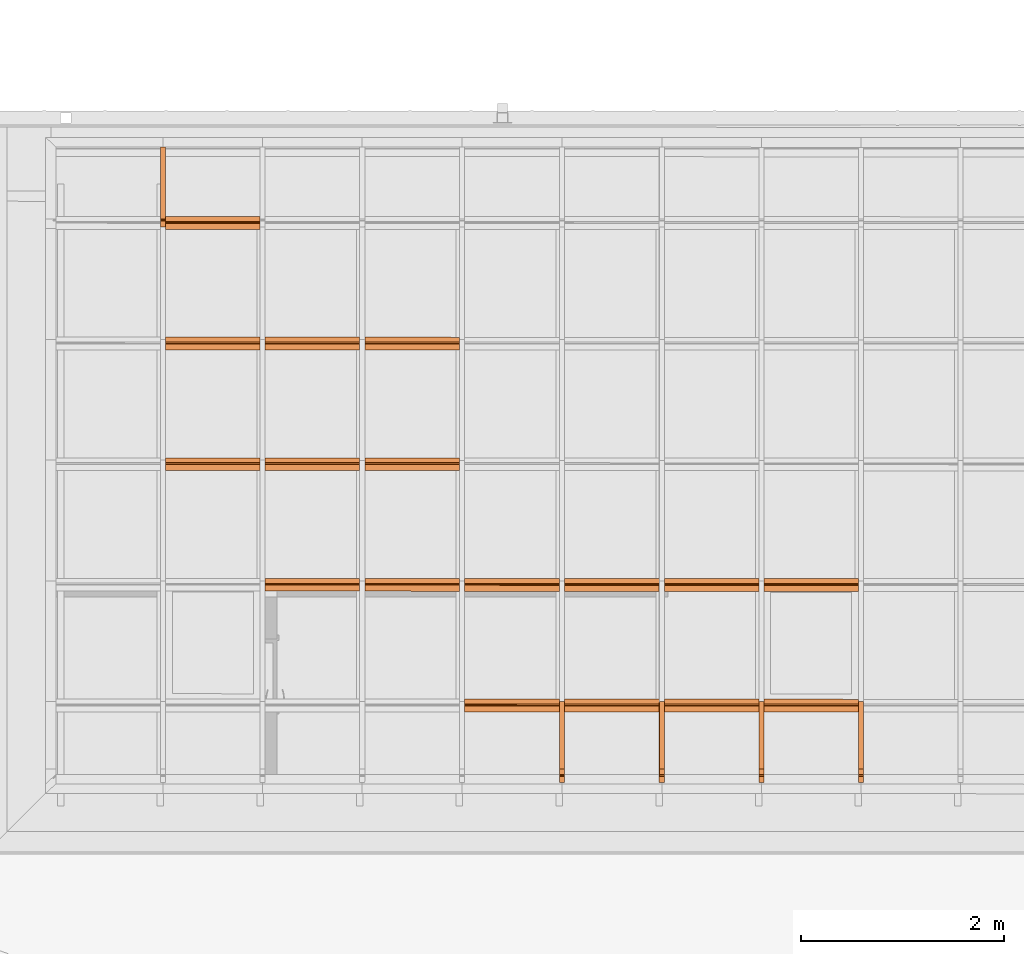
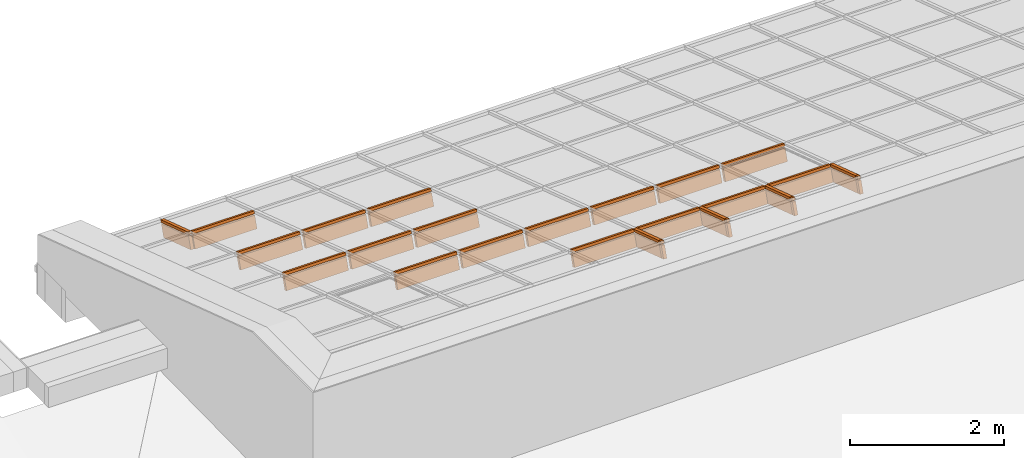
# One storey, part 41 of 47: 26 proxies, 1 element without a shape of its own.
"""IFC2X3 building model written with IfcOpenShell, lengths in millimetres."""

from ifc_helpers import new_model, entity, si_unit, converted_unit, derived_unit, money_unit, direction, frame, origin_with_axes, place, context, subcontext, project, spatial, polyline, outline, extrude, material, material_list, type_object, element, aggregate, save


model = new_model("IFC2X3")

# Units and contexts
model_context = context("Model", 3, precision=1e-05, world=origin_with_axes(), true_north=direction((0.0, 1.0)))
body_context = subcontext(model_context, "Body", "Model", "MODEL_VIEW")
ifc_project = project(units=[si_unit("LENGTHUNIT", "METRE", prefix="MILLI"), si_unit("AREAUNIT", "SQUARE_METRE"), si_unit("VOLUMEUNIT", "CUBIC_METRE"), converted_unit("PLANEANGLEUNIT", "DEGREE", entity("IfcPlaneAngleMeasure", 0.0174532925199), si_unit("PLANEANGLEUNIT", "RADIAN"), dimensions=[0, 0, 0, 0, 0, 0, 0]), si_unit("SOLIDANGLEUNIT", "STERADIAN"), money_unit("EUR"), converted_unit("TIMEUNIT", "Year", entity("IfcTimeMeasure", 31556926.0), si_unit("TIMEUNIT", "SECOND"), dimensions=[0, 0, 1, 0, 0, 0, 0]), si_unit("MASSUNIT", "GRAM", prefix="KILO"), si_unit("THERMODYNAMICTEMPERATUREUNIT", "DEGREE_CELSIUS"), si_unit("LUMINOUSINTENSITYUNIT", "LUMEN"), si_unit("ENERGYUNIT", "JOULE", prefix="MEGA"), derived_unit("THERMALCONDUCTANCEUNIT", [(si_unit("POWERUNIT", "WATT"), 1), (si_unit("LENGTHUNIT", "METRE"), -1), (si_unit("THERMODYNAMICTEMPERATUREUNIT", "KELVIN"), -1)]), derived_unit("SPECIFICHEATCAPACITYUNIT", [(si_unit("ENERGYUNIT", "JOULE"), 1), (si_unit("MASSUNIT", "GRAM", prefix="KILO"), -1), (si_unit("THERMODYNAMICTEMPERATUREUNIT", "KELVIN"), -1)]), derived_unit("MASSDENSITYUNIT", [(si_unit("MASSUNIT", "GRAM", prefix="KILO"), 1), (si_unit("VOLUMEUNIT", "CUBIC_METRE"), -1)])], contexts=[model_context])

# Site, building, storey
site_placement = place(None, origin_with_axes())
site = spatial("IfcSite", under=ifc_project, at=site_placement, Name="Site", CompositionType="ELEMENT")
building_placement = place(site_placement, origin_with_axes())
building = spatial("IfcBuilding", under=site, at=building_placement, Name="Building", CompositionType="ELEMENT")
storey_placement = place(building_placement, frame((0.0, 0.0, 6000.0), z_axis=(0.0, 0.0, 1.0), x_axis=(1.0, 0.0, 0.0)))
storey = spatial("IfcBuildingStorey", under=building, at=storey_placement, Name="KATUSEPLAAN", CompositionType="ELEMENT", Elevation=6000.0)

# Curtain wall, proxies
curtain_wall_type = type_object("IfcCurtainWallType", Name="KK-2", PredefinedType="NOTDEFINED")
curtain_wall_placement = place(storey_placement, frame((71638.1505463, 41358.6055567, 722.550081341), z_axis=(0.0, 0.0, 1.0), x_axis=(1.0, 0.0, 0.0)))
curtain_wall = element("IfcCurtainWall", 1, at=curtain_wall_placement, inside=storey, type_object=curtain_wall_type, Name="Talveaja klaaskatus")
ifc_material = material(Name="Alumiinium (1)")
ifc_material_list = material_list([ifc_material, ifc_material])
building_element_proxy_type_1 = type_object("IfcBuildingElementProxyType", Name="Frame-Mll-194", PredefinedType="NOTDEFINED")
proxy_1_placement = place(curtain_wall_placement, frame((-6378.99729663, 5983.62536693, 19.7403676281), z_axis=(0.0, -0.950019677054, 0.312190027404), x_axis=(-0.999999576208, 0.000287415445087, 0.000874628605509)))
proxy_1 = element("IfcBuildingElementProxy", 2, at=proxy_1_placement, type_object=building_element_proxy_type_1, material=ifc_material_list, Name="Alumiinium (1);  Objekti nimi: Frame 22", context=body_context, shape_type="SweptSolid", body=[
    extrude(outline(polyline([(25.0091958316, 9.97697969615), (25.1841179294, 199.976899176), (-24.8158608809, 200.022931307), (-24.990782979, 10.0230118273), (25.0091958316, 9.97697969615)])), frame((0.0, 4.54747350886e-10, 49.9999999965), z_axis=(0.0, 0.0, 1.0), x_axis=(0.999999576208, 0.000920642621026, 0.0)), (0.0, 0.0, 1.0), 744.739022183),
    extrude(outline(polyline([(-25.0091958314, -9.97697969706), (-25.0460215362, -49.9769627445), (24.9539572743, -50.0229948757), (24.990782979, -10.0230118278), (-25.0091958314, -9.97697969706)])), frame((0.0, 0.0, 49.9999999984), z_axis=(0.0, 0.0, 1.0), x_axis=(0.999999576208, 0.000920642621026, 0.0)), (0.0, 0.0, 1.0), 744.739022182),
])
building_element_proxy_type_2 = type_object("IfcBuildingElementProxyType", Name="Frame-Trs-749", PredefinedType="NOTDEFINED")
proxy_2_placement = place(curtain_wall_placement, frame((-5398.99771195, 1665.75220165, 1437.70543147), z_axis=(0.999999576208, -0.000287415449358, -0.000874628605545), x_axis=(0.0, -0.950019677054, 0.312190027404)))
proxy_2 = element("IfcBuildingElementProxy", 3, at=proxy_2_placement, type_object=building_element_proxy_type_2, material=ifc_material_list, Name="Alumiinium (1);  Objekti nimi: Frame 22", context=body_context, shape_type="SweptSolid", body=[
    extrude(outline(polyline([(26.8723924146, 1.69544270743), (86.1885203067, 182.199173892), (38.6875384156, 197.808681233), (-20.6285894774, 17.3049500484), (26.8723924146, 1.69544270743)])), frame((0.0, 0.0, 24.9999999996), z_axis=(0.0, 0.0, 1.0), x_axis=(0.950019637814, 0.312190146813, 0.0)), (0.0, 0.0, 1.0), 930.0),
    extrude(outline(polyline([(-26.8723924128, -1.69544270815), (-39.3599982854, -39.6962282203), (8.14098360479, -55.3057355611), (20.6285894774, -17.304950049), (-26.8723924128, -1.69544270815)])), frame((0.0, 0.0, 24.9999999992), z_axis=(0.0, 0.0, 1.0), x_axis=(0.950019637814, 0.312190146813, 0.0)), (0.0, 0.0, 1.0), 930.000000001),
])
building_element_proxy_type_3 = type_object("IfcBuildingElementProxyType", Name="Frame-Trs-751", PredefinedType="NOTDEFINED")
proxy_3_placement = place(curtain_wall_placement, frame((-3435.99854385, 1665.18800513, 1435.98853552), z_axis=(0.999999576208, -0.000287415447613, -0.000874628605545), x_axis=(0.0, -0.950019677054, 0.312190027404)))
proxy_3 = element("IfcBuildingElementProxy", 4, at=proxy_3_placement, type_object=building_element_proxy_type_3, material=ifc_material_list, Name="Alumiinium (1);  Objekti nimi: Frame 22", context=body_context, shape_type="SweptSolid", body=[
    extrude(outline(polyline([(26.8723924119, 1.69544270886), (86.1885203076, 182.199173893), (38.6875384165, 197.808681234), (-20.6285894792, 17.3049500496), (26.8723924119, 1.69544270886)])), frame((-9.09494701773e-10, 4.54747350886e-10, 25.0000000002), z_axis=(0.0, 0.0, 1.0), x_axis=(0.950019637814, 0.312190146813, 0.0)), (0.0, 0.0, 1.0), 933.0),
    extrude(outline(polyline([(-26.8723924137, -1.69544270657), (-39.3599982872, -39.6962282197), (8.14098360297, -55.3057355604), (20.6285894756, -17.3049500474), (-26.8723924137, -1.69544270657)])), frame((-9.09494701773e-10, 4.54747350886e-10, 25.0000000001), z_axis=(0.0, 0.0, 1.0), x_axis=(0.950019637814, 0.312190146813, 0.0)), (0.0, 0.0, 1.0), 933.0),
])
building_element_proxy_type_4 = type_object("IfcBuildingElementProxyType", Name="Frame-Trs-753", PredefinedType="NOTDEFINED")
proxy_4_placement = place(curtain_wall_placement, frame((-1469.99937703, 1664.62294637, 1434.26901568), z_axis=(0.999999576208, -0.000287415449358, -0.000874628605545), x_axis=(0.0, -0.950019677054, 0.312190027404)))
proxy_4 = element("IfcBuildingElementProxy", 5, at=proxy_4_placement, type_object=building_element_proxy_type_4, material=ifc_material_list, Name="Alumiinium (1);  Objekti nimi: Frame 22", context=body_context, shape_type="SweptSolid", body=[
    extrude(outline(polyline([(26.8723924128, 1.69544270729), (86.1885203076, 182.199173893), (38.6875384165, 197.808681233), (-20.6285894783, 17.304950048), (26.8723924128, 1.69544270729)])), frame((0.0, 0.0, 25.0000000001), z_axis=(0.0, 0.0, 1.0), x_axis=(0.950019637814, 0.312190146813, 0.0)), (0.0, 0.0, 1.0), 930.0),
    extrude(outline(polyline([(-26.8723924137, -1.69544270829), (-39.3599982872, -39.6962282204), (8.14098360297, -55.3057355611), (20.6285894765, -17.304950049), (-26.8723924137, -1.69544270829)])), frame((0.0, 0.0, 24.9999999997), z_axis=(0.0, 0.0, 1.0), x_axis=(0.950019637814, 0.312190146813, 0.0)), (0.0, 0.0, 1.0), 930.000000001),
])
building_element_proxy_type_5 = type_object("IfcBuildingElementProxyType", Name="Frame-Trs-172", PredefinedType="NOTDEFINED")
proxy_5_placement = place(curtain_wall_placement, frame((-6378.99729663, 5228.60765774, 267.849964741), z_axis=(0.999999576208, -0.000287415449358, -0.000874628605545), x_axis=(0.0, -0.950019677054, 0.312190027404)))
proxy_5 = element("IfcBuildingElementProxy", 6, at=proxy_5_placement, type_object=building_element_proxy_type_5, material=ifc_material_list, Name="Alumiinium (1);  Objekti nimi: Frame 22", context=body_context, shape_type="SweptSolid", body=[
    extrude(outline(polyline([(26.8723924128, 1.69544270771), (86.1885203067, 182.199173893), (38.6875384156, 197.808681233), (-20.6285894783, 17.3049500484), (26.8723924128, 1.69544270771)])), frame((-9.09494701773e-10, 0.0, 25.0), z_axis=(0.0, 0.0, 1.0), x_axis=(0.950019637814, 0.312190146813, 0.0)), (0.0, 0.0, 1.0), 930.0),
    extrude(outline(polyline([(-26.8723924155, -1.69544270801), (-39.3599982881, -39.6962282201), (8.14098360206, -55.3057355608), (20.6285894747, -17.3049500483), (-26.8723924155, -1.69544270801)])), frame((-9.09494701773e-10, 0.0, 24.9999999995), z_axis=(0.0, 0.0, 1.0), x_axis=(0.950019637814, 0.312190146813, 0.0)), (0.0, 0.0, 1.0), 930.000000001),
])
building_element_proxy_type_6 = type_object("IfcBuildingElementProxyType", Name="Frame-Trs-196", PredefinedType="NOTDEFINED")
proxy_6_placement = place(curtain_wall_placement, frame((-6378.99729663, 4041.08306142, 658.087498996), z_axis=(0.999999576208, -0.000287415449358, -0.000874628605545), x_axis=(0.0, -0.950019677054, 0.312190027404)))
proxy_6 = element("IfcBuildingElementProxy", 7, at=proxy_6_placement, type_object=building_element_proxy_type_6, material=ifc_material_list, Name="Alumiinium (1);  Objekti nimi: Frame 22", context=body_context, shape_type="SweptSolid", body=[
    extrude(outline(polyline([(26.8723924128, 1.69544270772), (86.1885203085, 182.199173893), (38.6875384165, 197.808681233), (-20.6285894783, 17.304950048), (26.8723924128, 1.69544270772)])), frame((0.0, 0.0, 25.0000000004), z_axis=(0.0, 0.0, 1.0), x_axis=(0.950019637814, 0.312190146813, 0.0)), (0.0, 0.0, 1.0), 930.0),
    extrude(outline(polyline([(-26.8723924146, -1.6954427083), (-39.3599982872, -39.6962282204), (8.14098360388, -55.3057355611), (20.6285894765, -17.3049500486), (-26.8723924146, -1.6954427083)])), frame((0.0, 0.0, 25.0), z_axis=(0.0, 0.0, 1.0), x_axis=(0.950019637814, 0.312190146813, 0.0)), (0.0, 0.0, 1.0), 930.000000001),
])
building_element_proxy_type_7 = type_object("IfcBuildingElementProxyType", Name="Frame-Trs-265", PredefinedType="NOTDEFINED")
proxy_7_placement = place(curtain_wall_placement, frame((-6378.99729663, 2853.5584651, 1048.32503325), z_axis=(0.999999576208, -0.000287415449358, -0.000874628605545), x_axis=(0.0, -0.950019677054, 0.312190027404)))
proxy_7 = element("IfcBuildingElementProxy", 8, at=proxy_7_placement, type_object=building_element_proxy_type_7, material=ifc_material_list, Name="Alumiinium (1);  Objekti nimi: Frame 22", context=body_context, shape_type="SweptSolid", body=[
    extrude(outline(polyline([(26.8723924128, 1.69544270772), (86.1885203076, 182.199173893), (38.6875384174, 197.808681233), (-20.6285894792, 17.304950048), (26.8723924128, 1.69544270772)])), frame((0.0, 0.0, 25.0000000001), z_axis=(0.0, 0.0, 1.0), x_axis=(0.950019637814, 0.312190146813, 0.0)), (0.0, 0.0, 1.0), 930.0),
    extrude(outline(polyline([(-26.8723924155, -1.69544270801), (-39.3599982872, -39.6962282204), (8.14098360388, -55.3057355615), (20.6285894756, -17.3049500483), (-26.8723924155, -1.69544270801)])), frame((0.0, 0.0, 24.9999999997), z_axis=(0.0, 0.0, 1.0), x_axis=(0.950019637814, 0.312190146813, 0.0)), (0.0, 0.0, 1.0), 930.000000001),
])
building_element_proxy_type_8 = type_object("IfcBuildingElementProxyType", Name="Frame-Trs-197", PredefinedType="NOTDEFINED")
proxy_8_placement = place(curtain_wall_placement, frame((-5398.99771195, 4040.80139428, 657.230362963), z_axis=(0.999999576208, -0.000287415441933, -0.000874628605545), x_axis=(0.0, -0.950019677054, 0.312190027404)))
proxy_8 = element("IfcBuildingElementProxy", 9, at=proxy_8_placement, type_object=building_element_proxy_type_8, material=ifc_material_list, Name="Alumiinium (1);  Objekti nimi: Frame 22", context=body_context, shape_type="SweptSolid", body=[
    extrude(outline(polyline([(26.8723924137, 1.69544270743), (86.1885203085, 182.199173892), (38.6875384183, 197.808681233), (-20.6285894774, 17.3049500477), (26.8723924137, 1.69544270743)])), frame((0.0, 0.0, 24.9999999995), z_axis=(0.0, 0.0, 1.0), x_axis=(0.950019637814, 0.312190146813, 0.0)), (0.0, 0.0, 1.0), 930.0),
    extrude(outline(polyline([(-26.8723924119, -1.69544270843), (-39.3599982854, -39.6962282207), (8.14098360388, -55.3057355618), (20.6285894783, -17.3049500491), (-26.8723924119, -1.69544270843)])), frame((0.0, 0.0, 24.9999999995), z_axis=(0.0, 0.0, 1.0), x_axis=(0.950019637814, 0.312190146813, 0.0)), (0.0, 0.0, 1.0), 930.0),
])
building_element_proxy_type_9 = type_object("IfcBuildingElementProxyType", Name="Frame-Trs-264", PredefinedType="NOTDEFINED")
proxy_9_placement = place(curtain_wall_placement, frame((-5398.99771195, 2853.27679796, 1047.46789722), z_axis=(0.999999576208, -0.000287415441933, -0.000874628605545), x_axis=(0.0, -0.950019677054, 0.312190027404)))
proxy_9 = element("IfcBuildingElementProxy", 10, at=proxy_9_placement, type_object=building_element_proxy_type_9, material=ifc_material_list, Name="Alumiinium (1);  Objekti nimi: Frame 22", context=body_context, shape_type="SweptSolid", body=[
    extrude(outline(polyline([(26.8723924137, 1.69544270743), (86.1885203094, 182.199173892), (38.6875384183, 197.808681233), (-20.6285894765, 17.3049500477), (26.8723924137, 1.69544270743)])), frame((0.0, 0.0, 24.9999999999), z_axis=(0.0, 0.0, 1.0), x_axis=(0.950019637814, 0.312190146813, 0.0)), (0.0, 0.0, 1.0), 930.0),
    extrude(outline(polyline([(-26.8723924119, -1.69544270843), (-39.3599982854, -39.696228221), (8.1409836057, -55.3057355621), (20.6285894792, -17.3049500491), (-26.8723924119, -1.69544270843)])), frame((0.0, 0.0, 24.9999999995), z_axis=(0.0, 0.0, 1.0), x_axis=(0.950019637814, 0.312190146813, 0.0)), (0.0, 0.0, 1.0), 930.000000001),
])
building_element_proxy_type_10 = type_object("IfcBuildingElementProxyType", Name="Frame-Trs-198", PredefinedType="NOTDEFINED")
proxy_10_placement = place(curtain_wall_placement, frame((-4418.99812727, 4040.51972715, 656.373226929), z_axis=(0.999999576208, -0.000287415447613, -0.000874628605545), x_axis=(0.0, -0.950019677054, 0.312190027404)))
proxy_10 = element("IfcBuildingElementProxy", 11, at=proxy_10_placement, type_object=building_element_proxy_type_10, material=ifc_material_list, Name="Alumiinium (1);  Objekti nimi: Frame 22", context=body_context, shape_type="SweptSolid", body=[
    extrude(outline(polyline([(26.8723924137, 1.69544270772), (86.1885203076, 182.199173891), (38.6875384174, 197.808681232), (-20.6285894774, 17.3049500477), (26.8723924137, 1.69544270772)])), frame((0.0, 0.0, 24.9999999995), z_axis=(0.0, 0.0, 1.0), x_axis=(0.950019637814, 0.312190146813, 0.0)), (0.0, 0.0, 1.0), 933.0),
    extrude(outline(polyline([(-26.8723924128, -1.69544270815), (-39.3599982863, -39.6962282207), (8.14098360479, -55.3057355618), (20.6285894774, -17.304950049), (-26.8723924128, -1.69544270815)])), frame((0.0, 0.0, 24.9999999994), z_axis=(0.0, 0.0, 1.0), x_axis=(0.950019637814, 0.312190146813, 0.0)), (0.0, 0.0, 1.0), 933.000000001),
])
building_element_proxy_type_11 = type_object("IfcBuildingElementProxyType", Name="Frame-Trs-263", PredefinedType="NOTDEFINED")
proxy_11_placement = place(curtain_wall_placement, frame((-4418.99812727, 2852.99513083, 1046.61076118), z_axis=(0.999999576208, -0.000287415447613, -0.000874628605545), x_axis=(0.0, -0.950019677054, 0.312190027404)))
proxy_11 = element("IfcBuildingElementProxy", 12, at=proxy_11_placement, type_object=building_element_proxy_type_11, material=ifc_material_list, Name="Alumiinium (1);  Objekti nimi: Frame 22", context=body_context, shape_type="SweptSolid", body=[
    extrude(outline(polyline([(26.8723924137, 1.69544270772), (86.1885203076, 182.199173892), (38.6875384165, 197.808681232), (-20.6285894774, 17.3049500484), (26.8723924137, 1.69544270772)])), frame((0.0, 0.0, 25.0), z_axis=(0.0, 0.0, 1.0), x_axis=(0.950019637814, 0.312190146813, 0.0)), (0.0, 0.0, 1.0), 933.0),
    extrude(outline(polyline([(-26.8723924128, -1.69544270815), (-39.3599982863, -39.6962282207), (8.14098360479, -55.3057355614), (20.6285894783, -17.3049500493), (-26.8723924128, -1.69544270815)])), frame((0.0, 0.0, 24.9999999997), z_axis=(0.0, 0.0, 1.0), x_axis=(0.950019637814, 0.312190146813, 0.0)), (0.0, 0.0, 1.0), 933.0),
])
building_element_proxy_type_12 = type_object("IfcBuildingElementProxyType", Name="Frame-Trs-519", PredefinedType="NOTDEFINED")
proxy_12_placement = place(curtain_wall_placement, frame((-3435.99854385, 477.663408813, 1826.22606977), z_axis=(0.999999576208, -0.000287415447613, -0.000874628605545), x_axis=(0.0, -0.950019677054, 0.312190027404)))
proxy_12 = element("IfcBuildingElementProxy", 13, at=proxy_12_placement, type_object=building_element_proxy_type_12, material=ifc_material_list, Name="Alumiinium (1);  Objekti nimi: Frame 22", context=body_context, shape_type="SweptSolid", body=[
    extrude(outline(polyline([(26.8723924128, 1.69544270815), (86.1885203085, 182.199173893), (38.6875384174, 197.808681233), (-20.6285894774, 17.3049500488), (26.8723924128, 1.69544270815)])), frame((9.09494701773e-10, 0.0, 24.9999999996), z_axis=(0.0, 0.0, 1.0), x_axis=(0.950019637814, 0.312190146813, 0.0)), (0.0, 0.0, 1.0), 933.0),
    extrude(outline(polyline([(-26.8723924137, -1.69544270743), (-39.3599982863, -39.69622822), (8.14098360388, -55.3057355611), (20.6285894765, -17.3049500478), (-26.8723924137, -1.69544270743)])), frame((9.09494701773e-10, 0.0, 24.9999999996), z_axis=(0.0, 0.0, 1.0), x_axis=(0.950019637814, 0.312190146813, 0.0)), (0.0, 0.0, 1.0), 933.0),
])
building_element_proxy_type_13 = type_object("IfcBuildingElementProxyType", Name="Frame-Trs-521", PredefinedType="NOTDEFINED")
proxy_13_placement = place(curtain_wall_placement, frame((-1469.99937703, 477.098350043, 1824.50654994), z_axis=(0.999999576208, -0.000287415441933, -0.000874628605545), x_axis=(0.0, -0.950019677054, 0.312190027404)))
proxy_13 = element("IfcBuildingElementProxy", 14, at=proxy_13_placement, type_object=building_element_proxy_type_13, material=ifc_material_list, Name="Alumiinium (1);  Objekti nimi: Frame 22", context=body_context, shape_type="SweptSolid", body=[
    extrude(outline(polyline([(26.8723924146, 1.69544270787), (86.1885203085, 182.199173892), (38.6875384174, 197.808681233), (-20.6285894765, 17.3049500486), (26.8723924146, 1.69544270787)])), frame((1.81898940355e-09, 4.54747350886e-10, 25.0), z_axis=(0.0, 0.0, 1.0), x_axis=(0.950019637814, 0.312190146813, 0.0)), (0.0, 0.0, 1.0), 930.0),
    extrude(outline(polyline([(-26.8723924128, -1.69544270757), (-39.3599982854, -39.696228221), (8.14098360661, -55.3057355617), (20.6285894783, -17.3049500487), (-26.8723924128, -1.69544270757)])), frame((1.81898940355e-09, 4.54747350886e-10, 24.9999999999), z_axis=(0.0, 0.0, 1.0), x_axis=(0.950019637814, 0.312190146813, 0.0)), (0.0, 0.0, 1.0), 930.0),
])
building_element_proxy_type_14 = type_object("IfcBuildingElementProxyType", Name="Frame-Mll-874", PredefinedType="NOTDEFINED")
proxy_14_placement = place(curtain_wall_placement, frame((-1469.99937703, 477.098350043, 1824.50654994), z_axis=(0.0, -0.950019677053, 0.312190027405), x_axis=(-0.999999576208, 0.000287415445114, 0.000874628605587)))
proxy_14 = element("IfcBuildingElementProxy", 15, at=proxy_14_placement, type_object=building_element_proxy_type_14, material=ifc_material_list, Name="Alumiinium (1);  Objekti nimi: Frame 22", context=body_context, shape_type="SweptSolid", body=[
    extrude(outline(polyline([(25.0091958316, 9.97697969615), (25.1841179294, 199.976899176), (-24.8158608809, 200.022931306), (-24.9907829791, 10.0230118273), (25.0091958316, 9.97697969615)])), frame((0.0, 0.0, 0.0), z_axis=(0.0, 0.0, 1.0), x_axis=(0.999999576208, 0.000920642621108, 0.0)), (0.0, 0.0, 1.0), 700.000000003),
    extrude(outline(polyline([(-25.0091958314, -9.97697969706), (-25.0460215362, -49.9769627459), (24.9539572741, -50.0229948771), (24.990782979, -10.0230118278), (-25.0091958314, -9.97697969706)])), frame((0.0, 0.0, 0.0), z_axis=(0.0, 0.0, 1.0), x_axis=(0.999999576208, 0.000920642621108, 0.0)), (0.0, 0.0, 1.0), 700.000000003),
])
building_element_proxy_type_15 = type_object("IfcBuildingElementProxyType", Name="Frame-Mll-873", PredefinedType="NOTDEFINED")
proxy_15_placement = place(curtain_wall_placement, frame((-2452.99896044, 477.380879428, 1825.36630986), z_axis=(0.0, -0.950019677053, 0.312190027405), x_axis=(-0.999999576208, 0.000287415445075, 0.000874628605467)))
proxy_15 = element("IfcBuildingElementProxy", 16, at=proxy_15_placement, type_object=building_element_proxy_type_15, material=ifc_material_list, Name="Alumiinium (1);  Objekti nimi: Frame 22", context=body_context, shape_type="SweptSolid", body=[
    extrude(outline(polyline([(25.0091958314, 9.9769796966), (25.1841179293, 199.976899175), (-24.8158608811, 200.022931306), (-24.9907829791, 10.0230118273), (25.0091958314, 9.9769796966)])), frame((0.0, 0.0, 0.0), z_axis=(0.0, 0.0, 1.0), x_axis=(0.999999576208, 0.000920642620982, 0.0)), (0.0, 0.0, 1.0), 700.000000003),
    extrude(outline(polyline([(-25.0091958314, -9.9769796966), (-25.0460215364, -49.9769627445), (24.9539572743, -50.0229948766), (24.990782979, -10.0230118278), (-25.0091958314, -9.9769796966)])), frame((0.0, 0.0, 0.0), z_axis=(0.0, 0.0, 1.0), x_axis=(0.999999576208, 0.000920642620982, 0.0)), (0.0, 0.0, 1.0), 700.000000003),
])
building_element_proxy_type_16 = type_object("IfcBuildingElementProxyType", Name="Frame-Trs-750", PredefinedType="NOTDEFINED")
proxy_16_placement = place(curtain_wall_placement, frame((-4418.99812727, 1665.47053451, 1436.84829544), z_axis=(0.999999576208, -0.000287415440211, -0.000874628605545), x_axis=(0.0, -0.950019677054, 0.312190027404)))
proxy_16 = element("IfcBuildingElementProxy", 17, at=proxy_16_placement, type_object=building_element_proxy_type_16, material=ifc_material_list, Name="Alumiinium (1);  Objekti nimi: Frame 22", context=body_context, shape_type="SweptSolid", body=[
    extrude(outline(polyline([(26.8723924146, 1.69544270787), (86.1885203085, 182.199173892), (38.6875384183, 197.808681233), (-20.6285894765, 17.3049500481), (26.8723924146, 1.69544270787)])), frame((0.0, -4.54747350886e-10, 24.9999999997), z_axis=(0.0, 0.0, 1.0), x_axis=(0.950019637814, 0.312190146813, 0.0)), (0.0, 0.0, 1.0), 933.0),
    extrude(outline(polyline([(-26.8723924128, -1.695442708), (-39.3599982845, -39.696228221), (8.14098360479, -55.3057355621), (20.6285894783, -17.3049500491), (-26.8723924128, -1.695442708)])), frame((0.0, -4.54747350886e-10, 24.9999999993), z_axis=(0.0, 0.0, 1.0), x_axis=(0.950019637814, 0.312190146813, 0.0)), (0.0, 0.0, 1.0), 933.0),
])
building_element_proxy_type_17 = type_object("IfcBuildingElementProxyType", Name="Frame-Trs-752", PredefinedType="NOTDEFINED")
proxy_17_placement = place(curtain_wall_placement, frame((-2452.99896044, 1664.90547574, 1435.1287756), z_axis=(0.999999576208, -0.000287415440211, -0.000874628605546), x_axis=(0.0, -0.950019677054, 0.312190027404)))
proxy_17 = element("IfcBuildingElementProxy", 18, at=proxy_17_placement, type_object=building_element_proxy_type_17, material=ifc_material_list, Name="Alumiinium (1);  Objekti nimi: Frame 22", context=body_context, shape_type="SweptSolid", body=[
    extrude(outline(polyline([(26.8723924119, 1.695442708), (86.1885203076, 182.199173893), (38.6875384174, 197.808681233), (-20.6285894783, 17.3049500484), (26.8723924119, 1.695442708)])), frame((-9.09494701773e-10, 0.0, 25.0), z_axis=(0.0, 0.0, 1.0), x_axis=(0.950019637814, 0.312190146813, 0.0)), (0.0, 0.0, 1.0), 933.0),
    extrude(outline(polyline([(-26.8723924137, -1.69544270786), (-39.3599982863, -39.6962282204), (8.14098360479, -55.3057355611), (20.6285894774, -17.3049500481), (-26.8723924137, -1.69544270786)])), frame((-9.09494701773e-10, 0.0, 24.9999999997), z_axis=(0.0, 0.0, 1.0), x_axis=(0.950019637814, 0.312190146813, 0.0)), (0.0, 0.0, 1.0), 933.000000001),
])
building_element_proxy_type_18 = type_object("IfcBuildingElementProxyType", Name="Frame-Trs-754", PredefinedType="NOTDEFINED")
proxy_18_placement = place(curtain_wall_placement, frame((-489.999792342, 1664.34127923, 1433.41187965), z_axis=(0.999999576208, -0.000287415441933, -0.000874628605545), x_axis=(0.0, -0.950019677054, 0.312190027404)))
proxy_18 = element("IfcBuildingElementProxy", 19, at=proxy_18_placement, type_object=building_element_proxy_type_18, material=ifc_material_list, Name="Alumiinium (1);  Objekti nimi: Frame 22", context=body_context, shape_type="SweptSolid", body=[
    extrude(outline(polyline([(26.8723924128, 1.69544270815), (86.1885203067, 182.199173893), (38.6875384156, 197.808681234), (-20.6285894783, 17.3049500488), (26.8723924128, 1.69544270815)])), frame((9.09494701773e-10, 0.0, 24.9999999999), z_axis=(0.0, 0.0, 1.0), x_axis=(0.950019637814, 0.312190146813, 0.0)), (0.0, 0.0, 1.0), 930.0),
    extrude(outline(polyline([(-26.8723924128, -1.695442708), (-39.3599982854, -39.6962282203), (8.1409836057, -55.3057355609), (20.6285894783, -17.3049500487), (-26.8723924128, -1.695442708)])), frame((9.09494701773e-10, 0.0, 24.9999999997), z_axis=(0.0, 0.0, 1.0), x_axis=(0.950019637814, 0.312190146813, 0.0)), (0.0, 0.0, 1.0), 930.000000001),
])
building_element_proxy_type_19 = type_object("IfcBuildingElementProxyType", Name="Frame-Mll-875", PredefinedType="NOTDEFINED")
proxy_19_placement = place(curtain_wall_placement, frame((-489.999792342, 476.81668291, 1823.6494139), z_axis=(0.0, -0.950019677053, 0.312190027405), x_axis=(-0.999999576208, 0.000287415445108, 0.000874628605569)))
proxy_19 = element("IfcBuildingElementProxy", 20, at=proxy_19_placement, type_object=building_element_proxy_type_19, material=ifc_material_list, Name="Alumiinium (1);  Objekti nimi: Frame 22", context=body_context, shape_type="SweptSolid", body=[
    extrude(outline(polyline([(25.0091958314, 9.9769796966), (25.1841179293, 199.976899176), (-24.8158608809, 200.022931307), (-24.9907829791, 10.0230118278), (25.0091958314, 9.9769796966)])), frame((0.0, 4.54747350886e-10, -1.81898940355e-09), z_axis=(0.0, 0.0, 1.0), x_axis=(0.999999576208, 0.00092064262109, 0.0)), (0.0, 0.0, 1.0), 700.000000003),
    extrude(outline(polyline([(-25.0091958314, -9.9769796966), (-25.0460215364, -49.9769627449), (24.9539572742, -50.0229948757), (24.990782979, -10.0230118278), (-25.0091958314, -9.9769796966)])), frame((0.0, 4.54747350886e-10, -1.81898940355e-09), z_axis=(0.0, 0.0, 1.0), x_axis=(0.999999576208, 0.00092064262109, 0.0)), (0.0, 0.0, 1.0), 700.000000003),
])
building_element_proxy_type_20 = type_object("IfcBuildingElementProxyType", Name="Frame-Mll-876", PredefinedType="NOTDEFINED")
proxy_20_placement = place(curtain_wall_placement, frame((489.999792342, 476.535015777, 1822.79227787), z_axis=(0.0, -0.950019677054, 0.312190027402), x_axis=(-0.999999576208, 0.000287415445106, 0.00087462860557)))
proxy_20 = element("IfcBuildingElementProxy", 21, at=proxy_20_placement, type_object=building_element_proxy_type_20, material=ifc_material_list, Name="Alumiinium (1);  Objekti nimi: Frame 22", context=body_context, shape_type="SweptSolid", body=[
    extrude(outline(polyline([(25.0091958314, 9.97697969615), (25.1841179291, 199.976899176), (-24.8158608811, 200.022931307), (-24.9907829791, 10.0230118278), (25.0091958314, 9.97697969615)])), frame((0.0, 0.0, 0.0), z_axis=(0.0, 0.0, 1.0), x_axis=(0.999999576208, 0.00092064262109, 0.0)), (0.0, 0.0, 1.0), 700.000000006),
    extrude(outline(polyline([(-25.0091958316, -9.97697969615), (-25.0460215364, -49.9769627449), (24.9539572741, -50.0229948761), (24.990782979, -10.0230118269), (-25.0091958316, -9.97697969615)])), frame((0.0, 0.0, -9.09494701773e-10), z_axis=(0.0, 0.0, 1.0), x_axis=(0.999999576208, 0.00092064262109, 0.0)), (0.0, 0.0, 1.0), 700.000000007),
])
building_element_proxy_type_21 = type_object("IfcBuildingElementProxyType", Name="Frame-Trs-520", PredefinedType="NOTDEFINED")
proxy_21_placement = place(curtain_wall_placement, frame((-2452.99896044, 477.380879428, 1825.36630986), z_axis=(0.999999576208, -0.000287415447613, -0.000874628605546), x_axis=(0.0, -0.950019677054, 0.312190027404)))
proxy_21 = element("IfcBuildingElementProxy", 22, at=proxy_21_placement, type_object=building_element_proxy_type_21, material=ifc_material_list, Name="Alumiinium (1);  Objekti nimi: Frame 22", context=body_context, shape_type="SweptSolid", body=[
    extrude(outline(polyline([(26.8723924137, 1.69544270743), (86.1885203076, 182.199173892), (38.6875384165, 197.808681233), (-20.6285894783, 17.3049500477), (26.8723924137, 1.69544270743)])), frame((9.09494701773e-10, 0.0, 25.0000000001), z_axis=(0.0, 0.0, 1.0), x_axis=(0.950019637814, 0.312190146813, 0.0)), (0.0, 0.0, 1.0), 933.0),
    extrude(outline(polyline([(-26.8723924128, -1.69544270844), (-39.3599982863, -39.6962282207), (8.14098360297, -55.3057355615), (20.6285894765, -17.304950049), (-26.8723924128, -1.69544270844)])), frame((9.09494701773e-10, 0.0, 25.0000000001), z_axis=(0.0, 0.0, 1.0), x_axis=(0.950019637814, 0.312190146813, 0.0)), (0.0, 0.0, 1.0), 933.0),
])
building_element_proxy_type_22 = type_object("IfcBuildingElementProxyType", Name="Frame-Trs-522", PredefinedType="NOTDEFINED")
proxy_22_placement = place(curtain_wall_placement, frame((-489.999792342, 476.81668291, 1823.6494139), z_axis=(0.999999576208, -0.000287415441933, -0.000874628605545), x_axis=(0.0, -0.950019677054, 0.312190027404)))
proxy_22 = element("IfcBuildingElementProxy", 23, at=proxy_22_placement, type_object=building_element_proxy_type_22, material=ifc_material_list, Name="Alumiinium (1);  Objekti nimi: Frame 22", context=body_context, shape_type="SweptSolid", body=[
    extrude(outline(polyline([(26.8723924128, 1.69544270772), (86.1885203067, 182.199173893), (38.6875384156, 197.808681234), (-20.6285894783, 17.3049500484), (26.8723924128, 1.69544270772)])), frame((0.0, 0.0, 25.0000000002), z_axis=(0.0, 0.0, 1.0), x_axis=(0.950019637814, 0.312190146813, 0.0)), (0.0, 0.0, 1.0), 930.0),
    extrude(outline(polyline([(-26.8723924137, -1.69544270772), (-39.3599982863, -39.6962282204), (8.14098360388, -55.3057355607), (20.6285894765, -17.3049500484), (-26.8723924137, -1.69544270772)])), frame((0.0, 0.0, 25.0000000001), z_axis=(0.0, 0.0, 1.0), x_axis=(0.950019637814, 0.312190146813, 0.0)), (0.0, 0.0, 1.0), 930.0),
])
building_element_proxy_type_23 = type_object("IfcBuildingElementProxyType", Name="Frame-Mll-000", PredefinedType="NOTDEFINED")
proxy_23_placement = place(curtain_wall_placement, frame((489.999792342, -188.478758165, 2041.32529705), z_axis=(0.0, -0.950019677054, 0.312190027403), x_axis=(-0.999999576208, 0.000287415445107, 0.00087462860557)))
proxy_23 = element("IfcBuildingElementProxy", 24, at=proxy_23_placement, type_object=building_element_proxy_type_23, material=ifc_material_list, Name="Alumiinium (1);  Objekti nimi: Frame 22", context=body_context, shape_type="SweptSolid", body=[
    extrude(outline(polyline([(25.0091958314, 9.9769796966), (25.1841179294, 199.976899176), (-24.8158608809, 200.022931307), (-24.9907829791, 10.0230118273), (25.0091958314, 9.9769796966)])), frame((0.0, 0.0, 0.0), z_axis=(0.0, 0.0, 1.0), x_axis=(0.999999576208, 0.00092064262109, 0.0)), (0.0, 0.0, 1.0), 55.2609778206),
    extrude(outline(polyline([(-25.0091958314, -9.9769796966), (-25.0460215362, -49.9769627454), (24.9539572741, -50.0229948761), (24.990782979, -10.0230118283), (-25.0091958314, -9.9769796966)])), frame((0.0, 4.54747350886e-10, -9.09494701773e-10), z_axis=(0.0, 0.0, 1.0), x_axis=(0.999999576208, 0.00092064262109, 0.0)), (0.0, 0.0, 1.0), 55.2609778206),
])
building_element_proxy_type_24 = type_object("IfcBuildingElementProxyType", Name="Frame-Mll-999", PredefinedType="NOTDEFINED")
proxy_24_placement = place(curtain_wall_placement, frame((-489.999792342, -188.197091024, 2042.18243309), z_axis=(0.0, -0.950019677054, 0.312190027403), x_axis=(-0.999999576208, 0.000287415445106, 0.00087462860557)))
proxy_24 = element("IfcBuildingElementProxy", 25, at=proxy_24_placement, type_object=building_element_proxy_type_24, material=ifc_material_list, Name="Alumiinium (1);  Objekti nimi: Frame 22", context=body_context, shape_type="SweptSolid", body=[
    extrude(outline(polyline([(25.0091958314, 9.97697969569), (25.1841179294, 199.976899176), (-24.8158608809, 200.022931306), (-24.990782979, 10.0230118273), (25.0091958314, 9.97697969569)])), frame((0.0, -4.54747350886e-10, -9.09494701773e-10), z_axis=(0.0, 0.0, 1.0), x_axis=(0.999999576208, 0.00092064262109, 0.0)), (0.0, 0.0, 1.0), 55.2609778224),
    extrude(outline(polyline([(-25.0091958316, -9.97697969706), (-25.0460215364, -49.9769627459), (24.9539572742, -50.0229948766), (24.990782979, -10.0230118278), (-25.0091958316, -9.97697969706)])), frame((0.0, -4.54747350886e-10, -1.81898940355e-09), z_axis=(0.0, 0.0, 1.0), x_axis=(0.999999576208, 0.00092064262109, 0.0)), (0.0, 0.0, 1.0), 55.2609778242),
])
building_element_proxy_type_25 = type_object("IfcBuildingElementProxyType", Name="Frame-Mll-998", PredefinedType="NOTDEFINED")
proxy_25_placement = place(curtain_wall_placement, frame((-1469.99937703, -187.915423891, 2043.03956912), z_axis=(0.0, -0.950019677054, 0.312190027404), x_axis=(-0.999999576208, 0.000287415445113, 0.000874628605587)))
proxy_25 = element("IfcBuildingElementProxy", 26, at=proxy_25_placement, type_object=building_element_proxy_type_25, material=ifc_material_list, Name="Alumiinium (1);  Objekti nimi: Frame 22", context=body_context, shape_type="SweptSolid", body=[
    extrude(outline(polyline([(25.0091958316, 9.97697969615), (25.1841179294, 199.976899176), (-24.8158608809, 200.022931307), (-24.990782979, 10.0230118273), (25.0091958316, 9.97697969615)])), frame((0.0, 0.0, 0.0), z_axis=(0.0, 0.0, 1.0), x_axis=(0.999999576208, 0.000920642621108, 0.0)), (0.0, 0.0, 1.0), 55.2609778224),
    extrude(outline(polyline([(-25.0091958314, -9.9769796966), (-25.0460215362, -49.9769627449), (24.9539572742, -50.0229948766), (24.990782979, -10.0230118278), (-25.0091958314, -9.9769796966)])), frame((0.0, 0.0, 0.0), z_axis=(0.0, 0.0, 1.0), x_axis=(0.999999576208, 0.000920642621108, 0.0)), (0.0, 0.0, 1.0), 55.2609778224),
])
building_element_proxy_type_26 = type_object("IfcBuildingElementProxyType", Name="Frame-Mll-997", PredefinedType="NOTDEFINED")
proxy_26_placement = place(curtain_wall_placement, frame((-2452.99896044, -187.632894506, 2043.89932904), z_axis=(0.0, -0.950019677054, 0.312190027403), x_axis=(-0.999999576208, 0.000287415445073, 0.000874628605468)))
proxy_26 = element("IfcBuildingElementProxy", 27, at=proxy_26_placement, type_object=building_element_proxy_type_26, material=ifc_material_list, Name="Alumiinium (1);  Objekti nimi: Frame 22", context=body_context, shape_type="SweptSolid", body=[
    extrude(outline(polyline([(25.0091958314, 9.97697969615), (25.1841179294, 199.976899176), (-24.8158608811, 200.022931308), (-24.9907829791, 10.0230118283), (25.0091958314, 9.97697969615)])), frame((0.0, 0.0, -9.09494701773e-10), z_axis=(0.0, 0.0, 1.0), x_axis=(0.999999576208, 0.000920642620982, 0.0)), (0.0, 0.0, 1.0), 55.2609778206),
    extrude(outline(polyline([(-25.0091958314, -9.9769796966), (-25.0460215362, -49.9769627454), (24.9539572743, -50.0229948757), (24.9907829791, -10.0230118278), (-25.0091958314, -9.9769796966)])), frame((0.0, 0.0, 0.0), z_axis=(0.0, 0.0, 1.0), x_axis=(0.999999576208, 0.000920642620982, 0.0)), (0.0, 0.0, 1.0), 55.2609778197),
])
aggregate(curtain_wall, [proxy_1, proxy_2, proxy_3, proxy_4, proxy_5, proxy_6, proxy_7, proxy_8, proxy_9, proxy_10, proxy_11, proxy_12, proxy_13, proxy_14, proxy_15, proxy_16, proxy_17, proxy_18, proxy_19, proxy_20, proxy_21, proxy_22, proxy_23, proxy_24, proxy_25, proxy_26])

save(model, "model.ifc")
